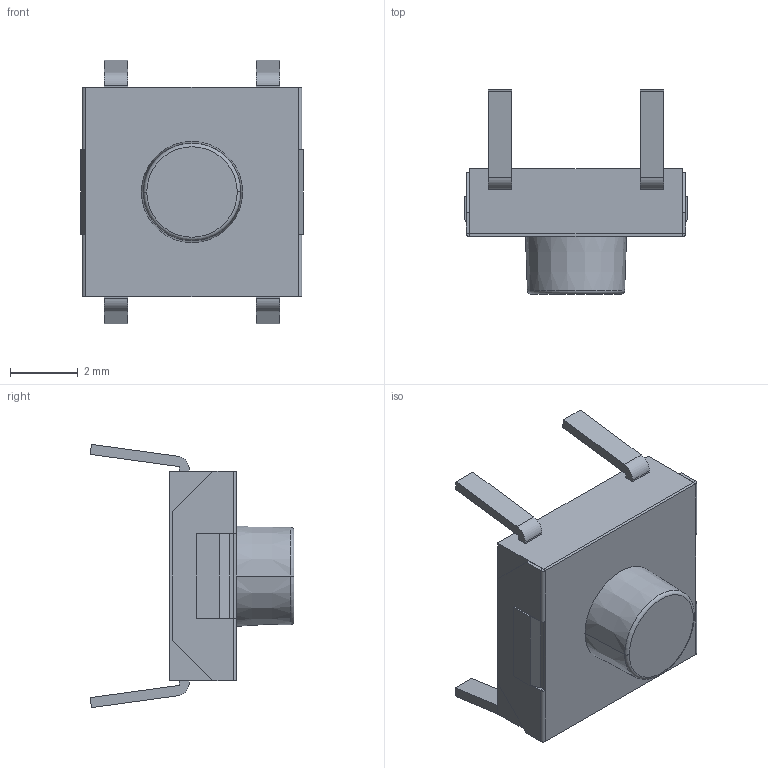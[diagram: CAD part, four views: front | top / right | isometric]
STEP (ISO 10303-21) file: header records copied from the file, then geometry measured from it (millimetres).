
FILE_DESCRIPTION((''),'2;1');
FILE_NAME('JQA6265-B0312-01AG-1-101_ASM','2026-04-22T16:25:18',('Admin'),(''),'CREO PARAMETRIC BY PTC INC, 2019224','CREO PARAMETRIC BY PTC INC, 2019224','');
FILE_SCHEMA(('AUTOMOTIVE_DESIGN { 1 0 10303 214 1 1 1 1 }'));
Length unit declared in the file: millimetre
Products named in the file (3): JQA6265-B0312-01AG-1-101_02; JQA6265-B0312-01AG-1-101_06; JQA6265-B0312-01AG-1-101_ASM
Assembly tree (2 placements, depth 2):
  JQA6265-B0312-01AG-1-101_ASM
    JQA6265-B0312-01AG-1-101_02
    JQA6265-B0312-01AG-1-101_06
Bounding box: 6.6 x 6.04 x 7.8 mm (x, y, z)
Volume: 94.2 mm3; surface area: 265.1 mm2
Topology: 2 solids, 2 shells, 93 faces, 226 edges, 142 vertices
Faces by surface type: plane 79, cylinder 10, cone 2, torus 2
Entity records: 3670 total; most frequent: CARTESIAN_POINT 475, DIRECTION 462, ORIENTED_EDGE 448, EDGE_CURVE 224, VECTOR 198, LINE 198, PRESENTATION_STYLE_ASSIGNMENT 169, VERTEX_POINT 138
